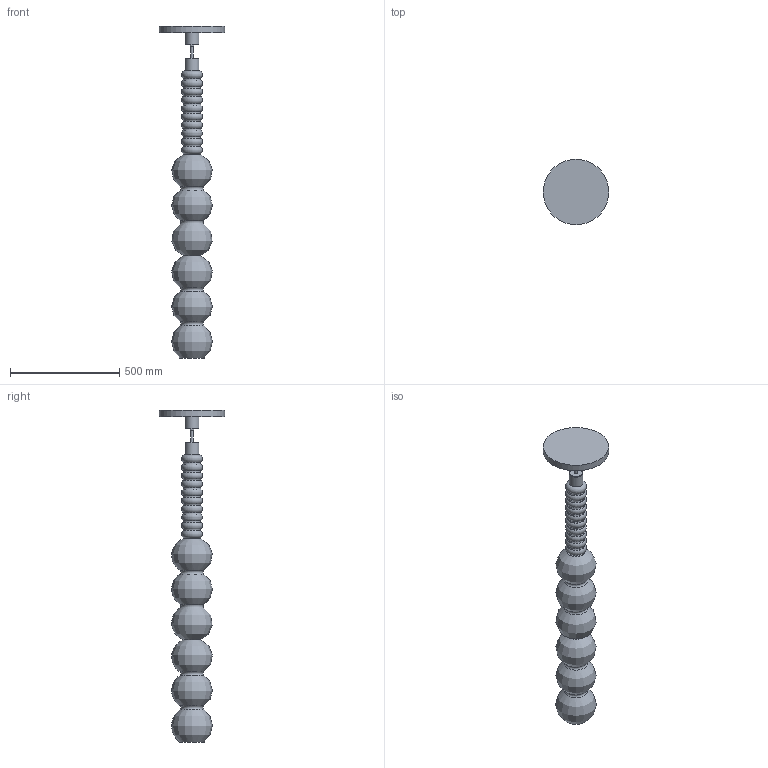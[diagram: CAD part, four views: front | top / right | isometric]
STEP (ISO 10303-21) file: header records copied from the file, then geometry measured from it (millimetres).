
FILE_DESCRIPTION(/* description */ (''),/* implementation_level */ '2;1');
FILE_NAME(/* name */ 'D:\Users\pavel.daniel.LASVIT\Desktop\obaly\3ds\16X052-00.stp',/* time_stamp */ '2017-03-13T10:44:47+01:00',/* author */ ('pavel.daniel'),/* organization */ (''),/* preprocessor_version */ 'ST-DEVELOPER v15.6',/* originating_system */ 'Autodesk Inventor 2015',/* authorisation */ '');
FILE_SCHEMA (('AUTOMOTIVE_DESIGN { 1 0 10303 214 3 1 1 }'));
Length unit declared in the file: millimetre
Products named in the file (1): 16X052-00-CE_Náhrada_1
Bounding box: 300 x 300 x 1521.06 mm (x, y, z)
Volume: 21583864.4 mm3; surface area: 1017290.8 mm2
Topology: 1 solids, 1 shells, 75 faces, 154 edges, 92 vertices
Faces by surface type: torus 44, plane 13, cylinder 9, bspline 8, cone 1
Full cylindrical faces by diameter (mm): 12 x2, 18 x1, 48.574 x1, 54.574 x1, 59.297 x1, 64 x2, 300 x1
Entity records: 2115 total; most frequent: CARTESIAN_POINT 608, DIRECTION 316, ORIENTED_EDGE 196, AXIS2_PLACEMENT_3D 158, EDGE_LOOP 140, EDGE_CURVE 98, CIRCLE 90, VERTEX_POINT 90
